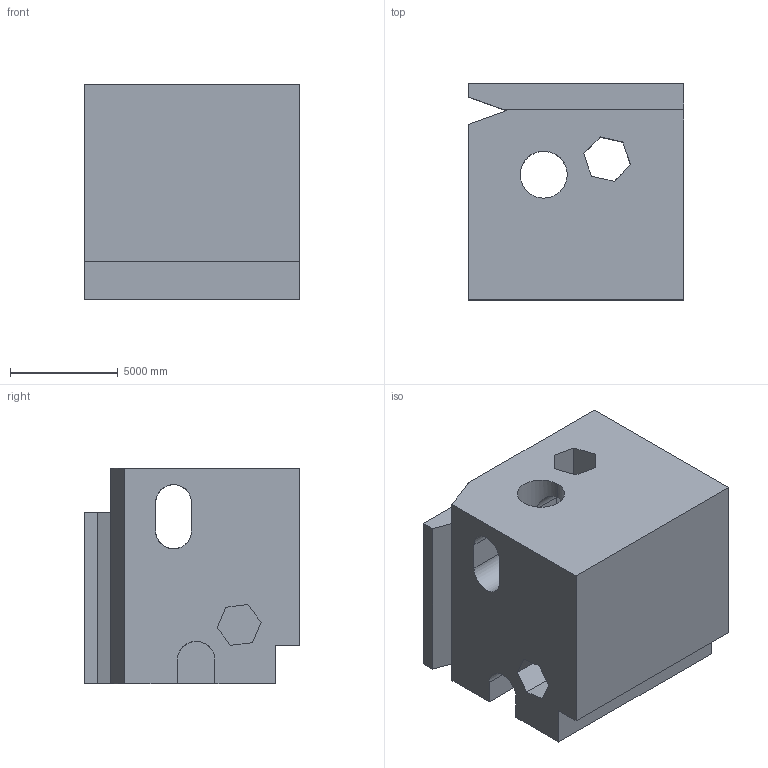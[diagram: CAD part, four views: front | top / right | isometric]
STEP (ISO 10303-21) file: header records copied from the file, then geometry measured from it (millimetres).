
FILE_DESCRIPTION (( 'STEP AP203' ), '1' );
FILE_NAME ('985.STEP', '2022-07-29T14:57:54', ( 'user' ), ( '' ), 'SwSTEP 2.0', 'SolidWorks 2021', '' );
FILE_SCHEMA (( 'CONFIG_CONTROL_DESIGN' ));
Length unit declared in the file: centimetre
Products named in the file (1): 985
Bounding box: 10000 x 10000 x 10000 mm (x, y, z)
Volume: 793832306837.7 mm3; surface area: 848236209.3 mm2
Topology: 1 solids, 1 shells, 62 faces, 201 edges, 134 vertices
Faces by surface type: plane 50, cylinder 12
Entity records: 2917 total; most frequent: CARTESIAN_POINT 1104, ORIENTED_EDGE 402, DIRECTION 314, EDGE_CURVE 201, LINE 156, VECTOR 156, VERTEX_POINT 134, AXIS2_PLACEMENT_3D 79
